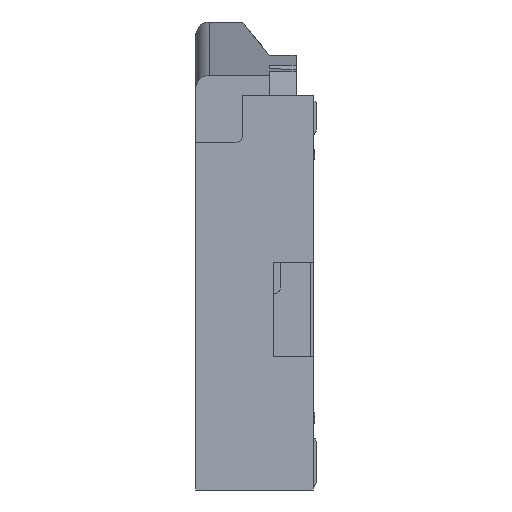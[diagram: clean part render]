
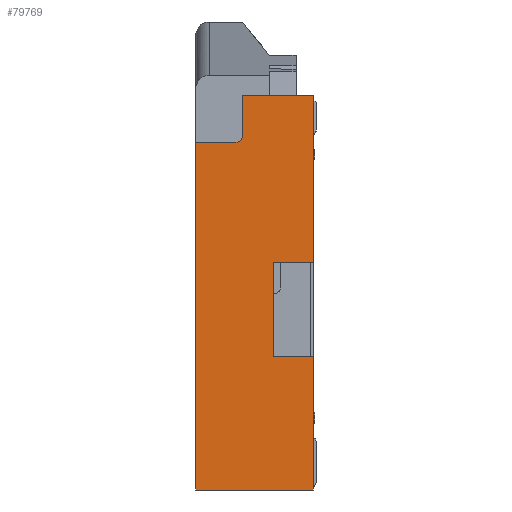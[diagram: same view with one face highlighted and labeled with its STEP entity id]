
A CAD part, left-side view. The second image highlights one B-rep face of the part: STEP entity #79769.
In plain terms, the highlighted planar face has unit normal (-1, 0, 0).
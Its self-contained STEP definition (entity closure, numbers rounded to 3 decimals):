
#18168 = LINE ( 'NONE', #110561, #18179 ) ;
#18179 = VECTOR ( 'NONE', #110568, 1000. ) ;
#18239 = CIRCLE ( 'NONE', #28490, 0.05 ) ;
#19199 = AXIS2_PLACEMENT_3D ( 'NONE', #72384, #72388, #72389 ) ;
#19866 = CARTESIAN_POINT ( 'NONE',  ( -8.4, 0.32, -1.95 ) ) ;
#19874 = CARTESIAN_POINT ( 'NONE',  ( -8.4, 0.9, -0.35 ) ) ;
#19906 = CARTESIAN_POINT ( 'NONE',  ( -8.4, 0.02, -1.95 ) ) ;
#19917 = CARTESIAN_POINT ( 'NONE',  ( -8.4, 0.02, -2.95 ) ) ;
#19919 = CARTESIAN_POINT ( 'NONE',  ( -8.4, 0.9, -2.95 ) ) ;
#19956 = CARTESIAN_POINT ( 'NONE',  ( -8.4, 0.32, -1.25 ) ) ;
#19962 = CARTESIAN_POINT ( 'NONE',  ( -8.4, 0.02, -1.25 ) ) ;
#19970 = CARTESIAN_POINT ( 'NONE',  ( -8.4, 0.02, 0. ) ) ;
#24577 = DIRECTION ( 'NONE',  ( 0., 1., 0. ) ) ;
#24582 = CARTESIAN_POINT ( 'NONE',  ( -8.4, 0.9, -0.35 ) ) ;
#24748 = DIRECTION ( 'NONE',  ( 0., 1., 0. ) ) ;
#24755 = CARTESIAN_POINT ( 'NONE',  ( -8.4, -0.564, -2.95 ) ) ;
#24773 = CARTESIAN_POINT ( 'NONE',  ( -8.4, 0.02, -1.95 ) ) ;
#24784 = DIRECTION ( 'NONE',  ( 0., 1., 0. ) ) ;
#24947 = DIRECTION ( 'NONE',  ( 0., -1., 0. ) ) ;
#24950 = CARTESIAN_POINT ( 'NONE',  ( -8.4, 0.02, -1.25 ) ) ;
#24953 = CARTESIAN_POINT ( 'NONE',  ( -8.4, 0.02, -2.85 ) ) ;
#24957 = CARTESIAN_POINT ( 'NONE',  ( -8.4, 0.9, 0. ) ) ;
#24959 = CARTESIAN_POINT ( 'NONE',  ( -8.4, 0.9, 0. ) ) ;
#24961 = DIRECTION ( 'NONE',  ( 0., 0., -1. ) ) ;
#24966 = CARTESIAN_POINT ( 'NONE',  ( -8.4, 0.02, -2.85 ) ) ;
#24968 = DIRECTION ( 'NONE',  ( 0., -1., 0. ) ) ;
#24973 = CARTESIAN_POINT ( 'NONE',  ( -8.4, 0.32, -1.25 ) ) ;
#24974 = DIRECTION ( 'NONE',  ( 0., 0., 1. ) ) ;
#24981 = DIRECTION ( 'NONE',  ( 0., 0., -1. ) ) ;
#24987 = DIRECTION ( 'NONE',  ( 0., 0., 1. ) ) ;
#28490 = AXIS2_PLACEMENT_3D ( 'NONE', #110617, #110618, #110619 ) ;
#44692 = VERTEX_POINT ( 'NONE', #19866 ) ;
#44698 = VERTEX_POINT ( 'NONE', #19874 ) ;
#44719 = VERTEX_POINT ( 'NONE', #19906 ) ;
#44726 = VERTEX_POINT ( 'NONE', #19917 ) ;
#44728 = VERTEX_POINT ( 'NONE', #19919 ) ;
#44754 = VERTEX_POINT ( 'NONE', #19956 ) ;
#44757 = VERTEX_POINT ( 'NONE', #19962 ) ;
#44762 = VERTEX_POINT ( 'NONE', #19970 ) ;
#45264 = CARTESIAN_POINT ( 'NONE',  ( -8.4, 0.55, -0.3 ) ) ;
#45272 = CARTESIAN_POINT ( 'NONE',  ( -8.4, 0.55, 0. ) ) ;
#45290 = CARTESIAN_POINT ( 'NONE',  ( -8.4, 0.6, -0.35 ) ) ;
#50272 = VERTEX_POINT ( 'NONE', #45264 ) ;
#50281 = VERTEX_POINT ( 'NONE', #45272 ) ;
#50305 = VERTEX_POINT ( 'NONE', #45290 ) ;
#60929 = EDGE_CURVE ( 'NONE', #50281, #50272, #18168, .T. ) ;
#60962 = EDGE_CURVE ( 'NONE', #50305, #50272, #18239, .T. ) ;
#72383 = PLANE ( 'NONE',  #19199 ) ;
#72384 = CARTESIAN_POINT ( 'NONE',  ( -8.4, 0., 0. ) ) ;
#72388 = DIRECTION ( 'NONE',  ( -1., 0., 0. ) ) ;
#72389 = DIRECTION ( 'NONE',  ( 0., 0., -1. ) ) ;
#79769 = ADVANCED_FACE ( 'NONE', ( #96751 ), #72383, .T. ) ;
#91994 = EDGE_LOOP ( 'NONE', ( #154435, #154440, #154444, #154450, #154456, #154460, #154465, #154471, #154477, #154483, #154488 ) ) ;
#96751 = FACE_OUTER_BOUND ( 'NONE', #91994, .T. ) ;
#102091 = LINE ( 'NONE', #24582, #102097 ) ;
#102097 = VECTOR ( 'NONE', #24577, 1000. ) ;
#102183 = LINE ( 'NONE', #24755, #102192 ) ;
#102186 = LINE ( 'NONE', #24773, #102203 ) ;
#102192 = VECTOR ( 'NONE', #24748, 1000. ) ;
#102203 = VECTOR ( 'NONE', #24784, 1000. ) ;
#102286 = LINE ( 'NONE', #24957, #102303 ) ;
#102289 = LINE ( 'NONE', #24950, #102295 ) ;
#102293 = LINE ( 'NONE', #24953, #102299 ) ;
#102295 = VECTOR ( 'NONE', #24947, 1000. ) ;
#102297 = LINE ( 'NONE', #24959, #102306 ) ;
#102299 = VECTOR ( 'NONE', #24961, 1000. ) ;
#102301 = LINE ( 'NONE', #24966, #102309 ) ;
#102303 = VECTOR ( 'NONE', #24968, 1000. ) ;
#102304 = LINE ( 'NONE', #24973, #102312 ) ;
#102306 = VECTOR ( 'NONE', #24974, 1000. ) ;
#102309 = VECTOR ( 'NONE', #24981, 1000. ) ;
#102312 = VECTOR ( 'NONE', #24987, 1000. ) ;
#110561 = CARTESIAN_POINT ( 'NONE',  ( -8.4, 0.55, 0. ) ) ;
#110568 = DIRECTION ( 'NONE',  ( 0., 0., -1. ) ) ;
#110617 = CARTESIAN_POINT ( 'NONE',  ( -8.4, 0.6, -0.3 ) ) ;
#110618 = DIRECTION ( 'NONE',  ( -1., 0., 0. ) ) ;
#110619 = DIRECTION ( 'NONE',  ( 0., 0., -1. ) ) ;
#143495 = EDGE_CURVE ( 'NONE', #50305, #44698, #102091, .T. ) ;
#143552 = EDGE_CURVE ( 'NONE', #44726, #44728, #102183, .T. ) ;
#143559 = EDGE_CURVE ( 'NONE', #44719, #44692, #102186, .T. ) ;
#143615 = EDGE_CURVE ( 'NONE', #44754, #44757, #102289, .T. ) ;
#143617 = EDGE_CURVE ( 'NONE', #44762, #44757, #102293, .T. ) ;
#143619 = EDGE_CURVE ( 'NONE', #50281, #44762, #102286, .T. ) ;
#143621 = EDGE_CURVE ( 'NONE', #44728, #44698, #102297, .T. ) ;
#143623 = EDGE_CURVE ( 'NONE', #44719, #44726, #102301, .T. ) ;
#143625 = EDGE_CURVE ( 'NONE', #44692, #44754, #102304, .T. ) ;
#154435 = ORIENTED_EDGE ( 'NONE', *, *, #143615, .T. ) ;
#154440 = ORIENTED_EDGE ( 'NONE', *, *, #143617, .F. ) ;
#154444 = ORIENTED_EDGE ( 'NONE', *, *, #143619, .F. ) ;
#154450 = ORIENTED_EDGE ( 'NONE', *, *, #60929, .T. ) ;
#154456 = ORIENTED_EDGE ( 'NONE', *, *, #60962, .F. ) ;
#154460 = ORIENTED_EDGE ( 'NONE', *, *, #143495, .T. ) ;
#154465 = ORIENTED_EDGE ( 'NONE', *, *, #143621, .F. ) ;
#154471 = ORIENTED_EDGE ( 'NONE', *, *, #143552, .F. ) ;
#154477 = ORIENTED_EDGE ( 'NONE', *, *, #143623, .F. ) ;
#154483 = ORIENTED_EDGE ( 'NONE', *, *, #143559, .T. ) ;
#154488 = ORIENTED_EDGE ( 'NONE', *, *, #143625, .T. ) ;
